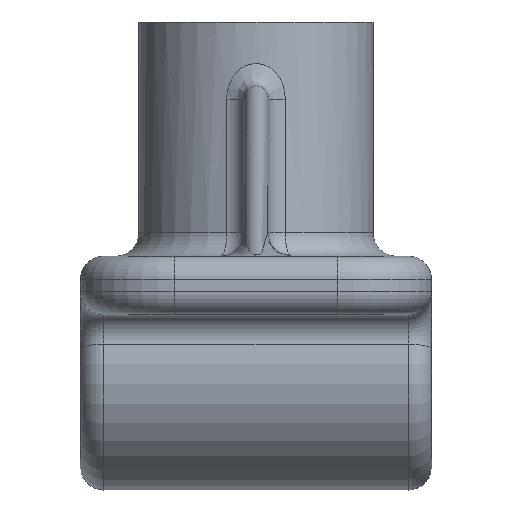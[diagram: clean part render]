
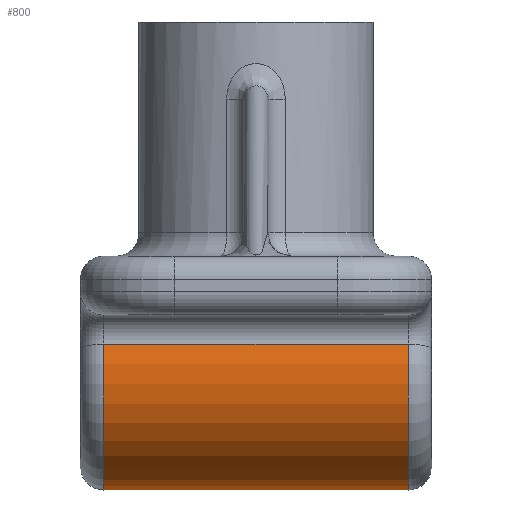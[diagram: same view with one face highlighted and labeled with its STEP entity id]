
A CAD part, left-side view. The second image highlights one B-rep face of the part: STEP entity #800.
In plain terms, the highlighted cylindrical face has radius 10 mm (diameter 20 mm), a partial arc.
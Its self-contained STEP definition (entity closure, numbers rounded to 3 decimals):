
#51=LINE('',#1356,#96);
#53=LINE('',#1365,#98);
#96=VECTOR('',#1077,10.);
#98=VECTOR('',#1093,10.);
#138=CYLINDRICAL_SURFACE('',#908,10.);
#177=FACE_OUTER_BOUND('',#233,.T.);
#233=EDGE_LOOP('',(#629,#630,#631,#632));
#299=CIRCLE('',#893,10.);
#301=CIRCLE('',#896,10.);
#339=VERTEX_POINT('',#1270);
#341=VERTEX_POINT('',#1275);
#353=VERTEX_POINT('',#1311);
#359=VERTEX_POINT('',#1324);
#449=EDGE_CURVE('',#353,#359,#51,.T.);
#451=EDGE_CURVE('',#359,#341,#299,.T.);
#453=EDGE_CURVE('',#339,#353,#301,.T.);
#455=EDGE_CURVE('',#341,#339,#53,.T.);
#629=ORIENTED_EDGE('',*,*,#449,.F.);
#630=ORIENTED_EDGE('',*,*,#453,.F.);
#631=ORIENTED_EDGE('',*,*,#455,.F.);
#632=ORIENTED_EDGE('',*,*,#451,.F.);
#800=ADVANCED_FACE('',(#177),#138,.T.);
#893=AXIS2_PLACEMENT_3D('',#1359,#1082,#1083);
#896=AXIS2_PLACEMENT_3D('',#1362,#1088,#1089);
#908=AXIS2_PLACEMENT_3D('',#1390,#1121,#1122);
#1077=DIRECTION('',(0.,1.,0.));
#1082=DIRECTION('center_axis',(0.,1.,0.));
#1083=DIRECTION('ref_axis',(0.,0.,-1.));
#1088=DIRECTION('center_axis',(0.,-1.,0.));
#1089=DIRECTION('ref_axis',(0.,0.,-1.));
#1093=DIRECTION('',(0.,-1.,0.));
#1121=DIRECTION('center_axis',(0.,1.,0.));
#1122=DIRECTION('ref_axis',(0.,0.,-1.));
#1270=CARTESIAN_POINT('',(20.318,12.,-2.5));
#1275=CARTESIAN_POINT('',(20.318,38.,-2.5));
#1311=CARTESIAN_POINT('',(39.682,12.,-2.5));
#1324=CARTESIAN_POINT('',(39.682,38.,-2.5));
#1356=CARTESIAN_POINT('',(39.682,25.,-2.5));
#1359=CARTESIAN_POINT('Origin',(30.,38.,-5.));
#1362=CARTESIAN_POINT('Origin',(30.,12.,-5.));
#1365=CARTESIAN_POINT('',(20.318,25.,-2.5));
#1390=CARTESIAN_POINT('Origin',(30.,25.,-5.));
